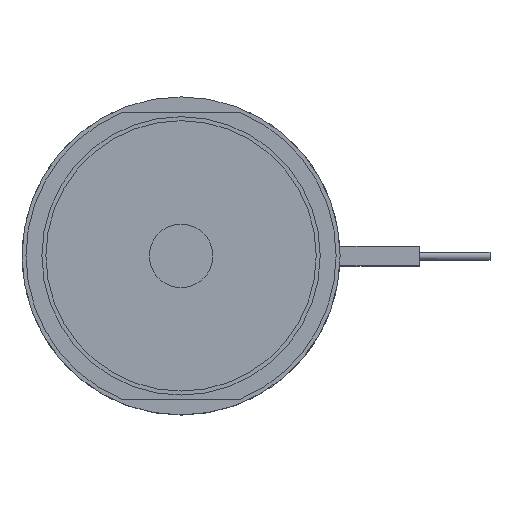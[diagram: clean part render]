
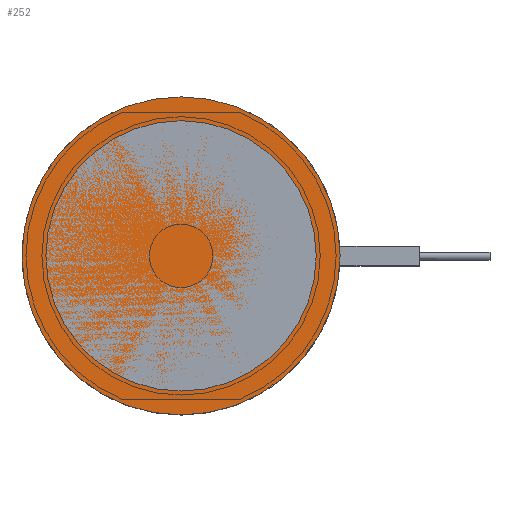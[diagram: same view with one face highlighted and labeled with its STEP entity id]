
A CAD part, top view. The second image highlights one B-rep face of the part: STEP entity #252.
In plain terms, the highlighted planar face has unit normal (0, 0, 1).
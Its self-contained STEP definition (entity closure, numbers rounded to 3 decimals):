
#252=ADVANCED_FACE('',(#333),#288,.F.);
#288=PLANE('',#1119);
#333=FACE_OUTER_BOUND('',#421,.T.);
#421=EDGE_LOOP('',(#708));
#489=CIRCLE('',#1118,20.);
#708=ORIENTED_EDGE('',*,*,#917,.F.);
#803=VERTEX_POINT('',#1880);
#917=EDGE_CURVE('',#803,#803,#489,.T.);
#1118=AXIS2_PLACEMENT_3D('',#1879,#1394,#1395);
#1119=AXIS2_PLACEMENT_3D('',#1881,#1396,#1397);
#1394=DIRECTION('',(0.,0.,-1.));
#1395=DIRECTION('',(-1.,0.,0.));
#1396=DIRECTION('',(0.,0.,-1.));
#1397=DIRECTION('',(-1.,0.,0.));
#1879=CARTESIAN_POINT('',(0.,0.,0.));
#1880=CARTESIAN_POINT('',(-20.,0.,0.));
#1881=CARTESIAN_POINT('',(0.,0.,0.));
